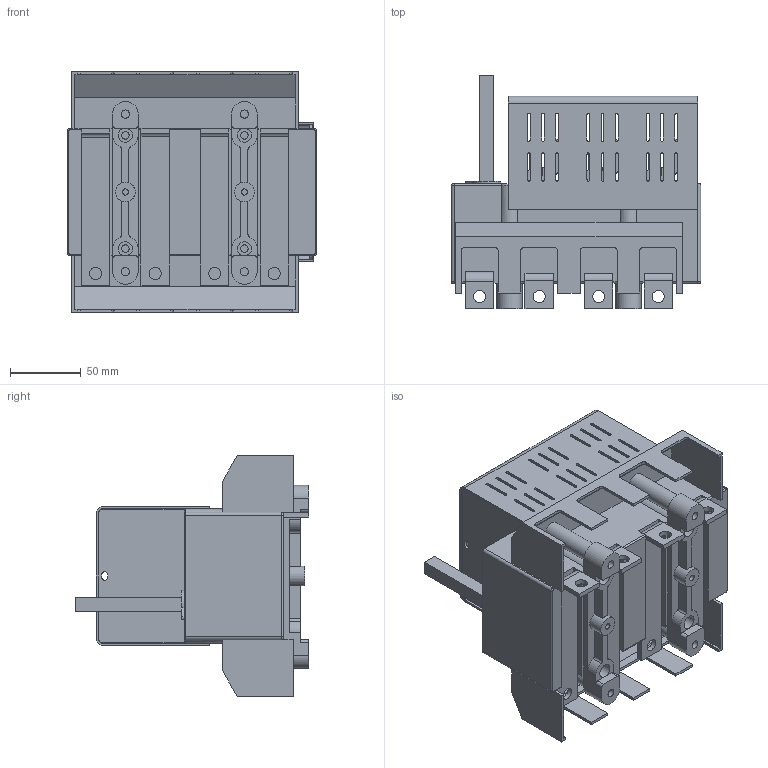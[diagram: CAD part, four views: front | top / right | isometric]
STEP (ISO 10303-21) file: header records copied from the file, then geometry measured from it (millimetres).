
FILE_DESCRIPTION(/* description */ (''),/* implementation_level */ '2;1');
FILE_NAME(/* name */ 'RAB 00 P3 NA z oslona zaciskow.stp',/* time_stamp */ '2021-08-19T11:11:40+02:00',/* author */ (''),/* organization */ (''),/* preprocessor_version */ 'ST-DEVELOPER v18.1',/* originating_system */ 'SIEMENS PLM Software NX 1965',/* authorisation */ '');
FILE_SCHEMA (('AUTOMOTIVE_DESIGN { 1 0 10303 214 3 1 1 1 }'));
Length unit declared in the file: millimetre
Products named in the file (1): RAB 00 P3 NA z oslona zaciskow_stp
Bounding box: 176 x 165 x 169.8 mm (x, y, z)
Volume: 1314152.5 mm3; surface area: 281635.7 mm2
Topology: 1 solids, 1 shells, 958 faces, 2751 edges, 1806 vertices
Faces by surface type: plane 619, cylinder 331, bspline 4, torus 4
Full cylindrical faces by diameter (mm): 2.7 x4, 4.3 x2, 5 x6, 5.3 x4, 5.8 x4, 8.5 x8, 10 x12, 13 x4, 14 x2
Entity records: 31107 total; most frequent: CARTESIAN_POINT 5528, ORIENTED_EDGE 5326, DIRECTION 5249, EDGE_CURVE 2663, LINE 1951, VECTOR 1951, VERTEX_POINT 1764, AXIS2_PLACEMENT_3D 1649
